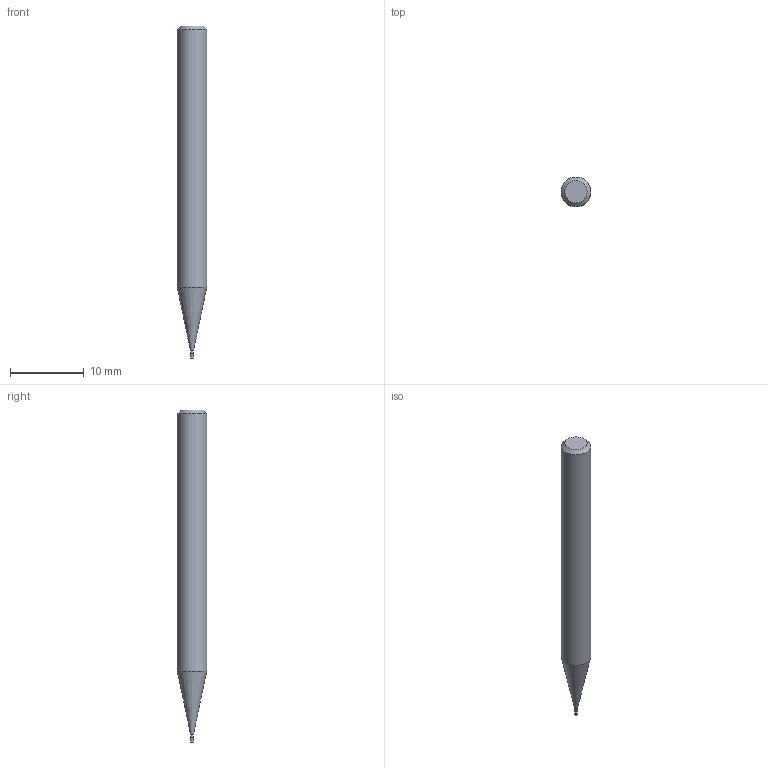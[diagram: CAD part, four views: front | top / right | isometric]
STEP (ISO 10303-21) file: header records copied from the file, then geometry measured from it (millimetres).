
FILE_DESCRIPTION((''),'2;1');
FILE_NAME('C:\Users\nsx150\AppData\Local\Temp\Mastercam 2021\17T8Q8S9EB\TEMP.step','2021-04-21T14:23:53',(''),(''),'STEP Write','Mastercam 2021 ... CNC Software, Inc.','');
FILE_SCHEMA(('AUTOMOTIVE_DESIGN'));
Length unit declared in the file: millimetre
Products named in the file (1): None
Bounding box: 4 x 4 x 45 mm (x, y, z)
Volume: 483.7 mm3; surface area: 515.7 mm2
Topology: 2 solids, 2 shells, 9 faces, 12 edges, 7 vertices
Faces by surface type: plane 4, cylinder 3, cone 2
Full cylindrical faces by diameter (mm): 0.37 x1, 0.4 x1, 4 x1
Entity records: 211 total; most frequent: DIRECTION 36, CARTESIAN_POINT 25, AXIS2_PLACEMENT_3D 18, ORIENTED_EDGE 14, EDGE_LOOP 14, STYLED_ITEM 12, ADVANCED_FACE 9, FACE_BOUND 8
